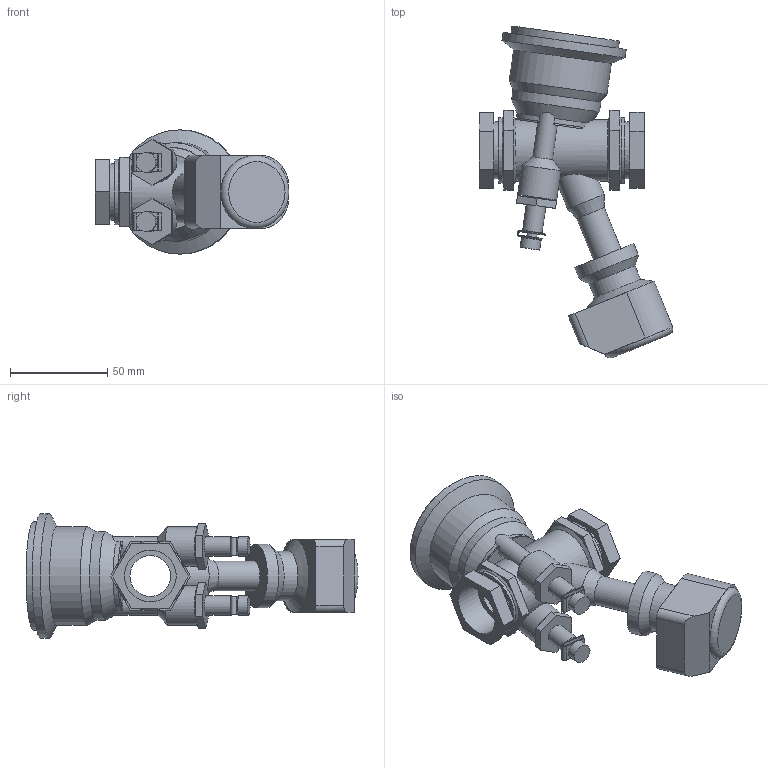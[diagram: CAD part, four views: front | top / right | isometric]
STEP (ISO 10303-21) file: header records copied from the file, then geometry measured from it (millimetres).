
FILE_DESCRIPTION(/* description */ ('VIC BALANCING AND CONTROL VALVE SERIES 7CP (FPT)-EMO 3','CAx-IF Rec.Pracs.---Representation and Presentation of Product Manufacturing Information (PMI)---4.0---2014-10-13'),/* implementation_level */ '2;1');
FILE_NAME(/* name */ 'C:\Users\Vjadhav\AppData\Roaming\Autodesk\ApplicationPlugins\Victaulic.Temp\A633\Victaulic_IPS_Valve Balancing Pressure Independent_TA Series 7CP (FPT)_EMO 3_0.75 (20).stp',/* time_stamp */ '2021-09-14T20:03:21+06:00',/* author */ ('Vjadhav'),/* organization */ ('Victaulic'),/* preprocessor_version */ 'ST-DEVELOPER v17.2',/* originating_system */ 'Autodesk Inventor 2019',/* authorisation */ '');
FILE_SCHEMA (('AP242_MANAGED_MODEL_BASED_3D_ENGINEERING_MIM_LF { 1 0 10303 442 1 1 4 }'));
Length unit declared in the file: inch
Products named in the file (2): 7CP_EMO 3-0.75; 7CP-0.75
Assembly tree (1 placements, depth 2):
  7CP_EMO 3-0.75
    7CP-0.75
Bounding box: 99.78 x 170.94 x 64.01 mm (x, y, z)
Volume: 207048.5 mm3; surface area: 48790.2 mm2
Topology: 1 solids, 1 shells, 178 faces, 456 edges, 302 vertices
Faces by surface type: plane 116, cylinder 49, cone 12, torus 1
Full cylindrical faces by diameter (mm): 5.08 x6, 10.16 x8, 15.189 x1, 20.32 x3, 20.93 x2, 25.4 x1, 26.67 x3, 29.21 x2, 31.75 x1, 32.766 x1, 33.782 x2, 37.631 x1, 45.72 x1, 50.8 x1, 55.88 x1, 64.008 x1
Entity records: 5999 total; most frequent: CARTESIAN_POINT 1210, DIRECTION 983, ORIENTED_EDGE 912, EDGE_CURVE 456, AXIS2_PLACEMENT_3D 367, VERTEX_POINT 302, LINE 249, VECTOR 249
